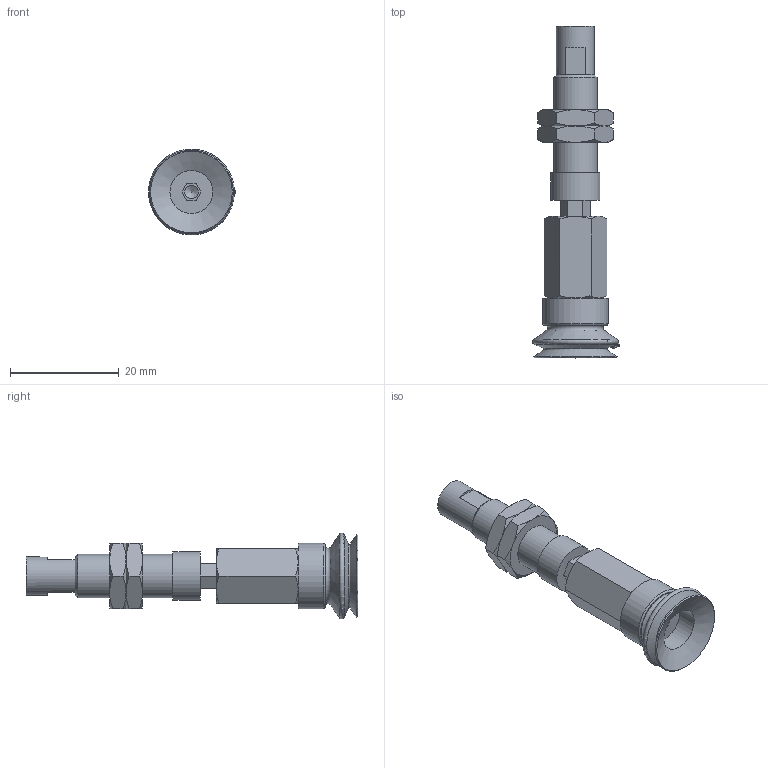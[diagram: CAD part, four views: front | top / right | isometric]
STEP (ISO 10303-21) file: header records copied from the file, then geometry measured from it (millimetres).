
FILE_DESCRIPTION(('STEP AP203'),'1');
FILE_NAME('.stp','2025-08-27T06:49:41',(' '),(' '),'Spatial InterOp 3D',' ',' ');
FILE_SCHEMA(('CONFIG_CONTROL_DESIGN'));
Length unit declared in the file: millimetre
Products named in the file (7): BNABPJTH-15-3-※; ADAPTER; NAPCTH-10-3-MBODY; Adapter-15-NAPJ; NAPJH-15-3-NUT; NAPJTH-15-3-FBODY; BPJG-15-※
Assembly tree (7 placements, depth 2):
  BNABPJTH-15-3-※
    ADAPTER
    NAPCTH-10-3-MBODY
    Adapter-15-NAPJ
    NAPJH-15-3-NUT  x2
    NAPJTH-15-3-FBODY
    BPJG-15-※
Bounding box: 15.99 x 61 x 15.78 mm (x, y, z)
Volume: 4250.8 mm3; surface area: 4702.6 mm2
Topology: 7 solids, 7 shells, 147 faces, 320 edges, 191 vertices
Faces by surface type: plane 62, cone 53, cylinder 13, torus 9, bspline 6, sphere 4
Full cylindrical faces by diameter (mm): 2.5 x1, 4.134 x2, 4.6 x1, 5 x1, 7 x1, 7.188 x2, 7.9 x1, 8 x2, 9 x1, 12 x1
Entity records: 3942 total; most frequent: CARTESIAN_POINT 1122, DIRECTION 514, ORIENTED_EDGE 458, EDGE_CURVE 229, AXIS2_PLACEMENT_3D 215, EDGE_LOOP 169, VERTEX_POINT 155, FACE_OUTER_BOUND 143
